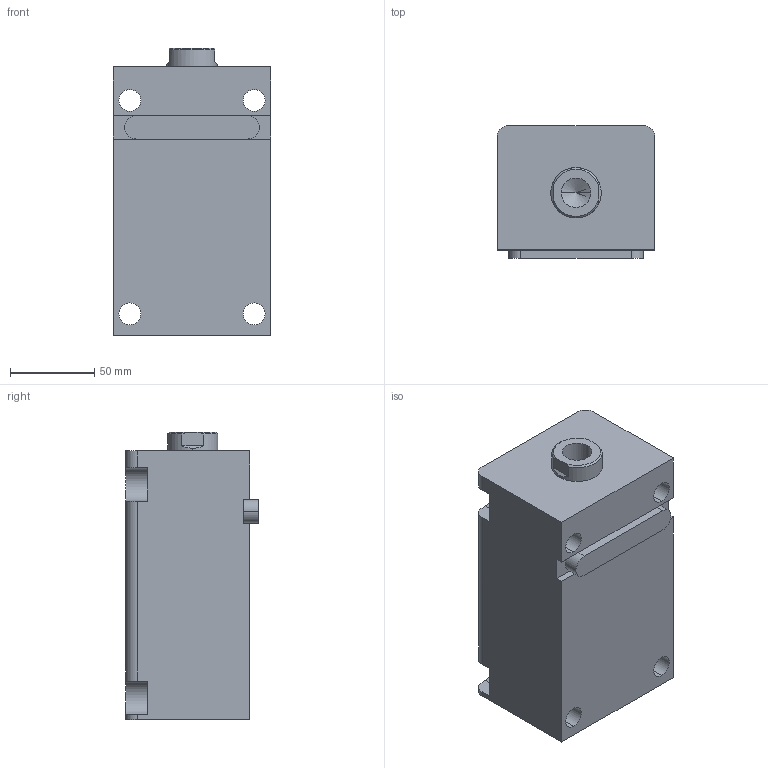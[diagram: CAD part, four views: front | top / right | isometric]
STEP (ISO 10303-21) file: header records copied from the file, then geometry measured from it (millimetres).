
FILE_DESCRIPTION (( 'STEP AP203' ), '1' );
FILE_NAME ('HTB-LA50-100N.STEP', '2019-10-09T07:14:13', ( '微软用户' ), ( '微软中国' ), 'SwSTEP 2.0', 'SolidWorks 2012', '' );
FILE_SCHEMA (( 'CONFIG_CONTROL_DESIGN' ));
Length unit declared in the file: millimetre
Products named in the file (4): HTB-LA50-100掛极; HTB-LA50-100N; HTB-LA50-100N活塞杆; HTB-LA50-瑩
Assembly tree (3 placements, depth 2):
  HTB-LA50-100N
    HTB-LA50-100掛极
    HTB-LA50-100N活塞杆
    HTB-LA50-瑩
Bounding box: 94 x 79 x 171 mm (x, y, z)
Volume: 936723.1 mm3; surface area: 128430.3 mm2
Topology: 3 solids, 3 shells, 86 faces, 213 edges, 139 vertices
Faces by surface type: plane 39, cylinder 35, cone 8, torus 4
Entity records: 3001 total; most frequent: DIRECTION 475, CARTESIAN_POINT 470, ORIENTED_EDGE 422, EDGE_CURVE 211, AXIS2_PLACEMENT_3D 180, VERTEX_POINT 139, VECTOR 115, LINE 115
